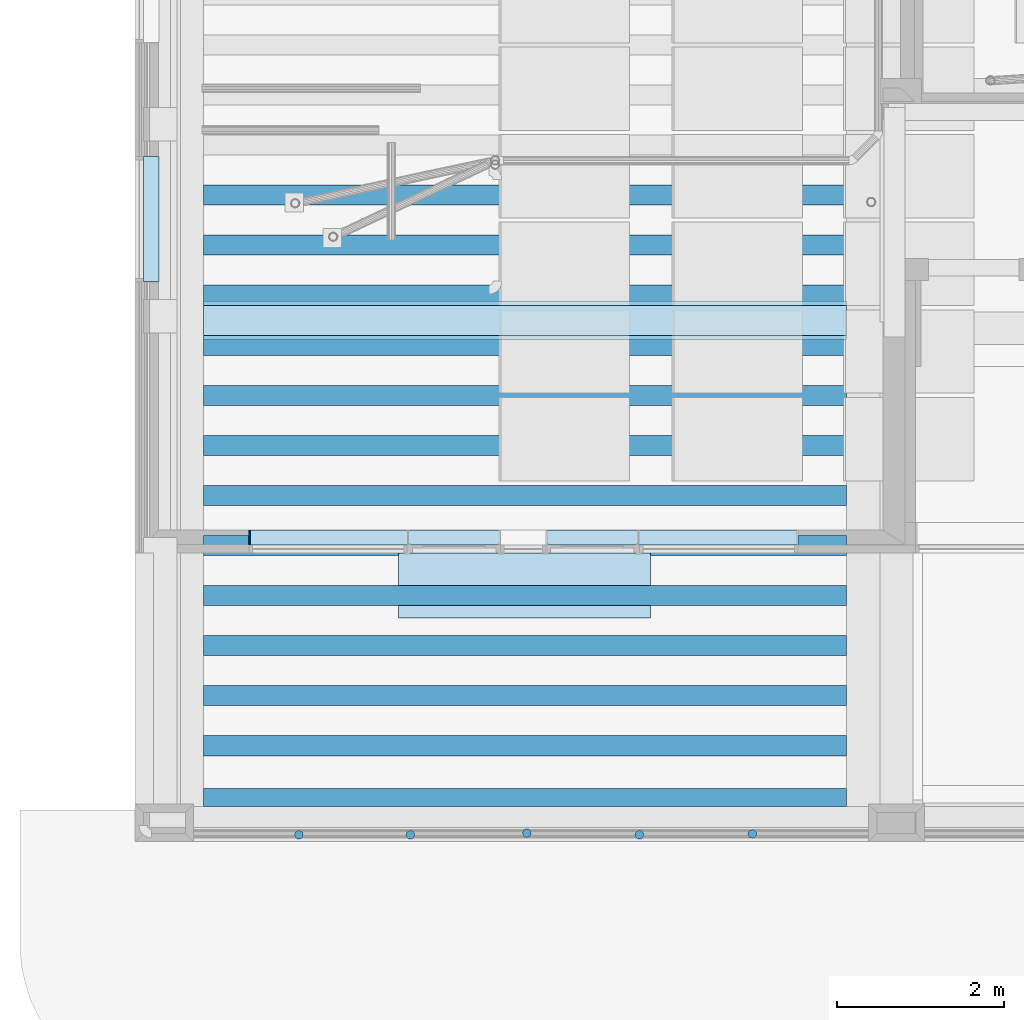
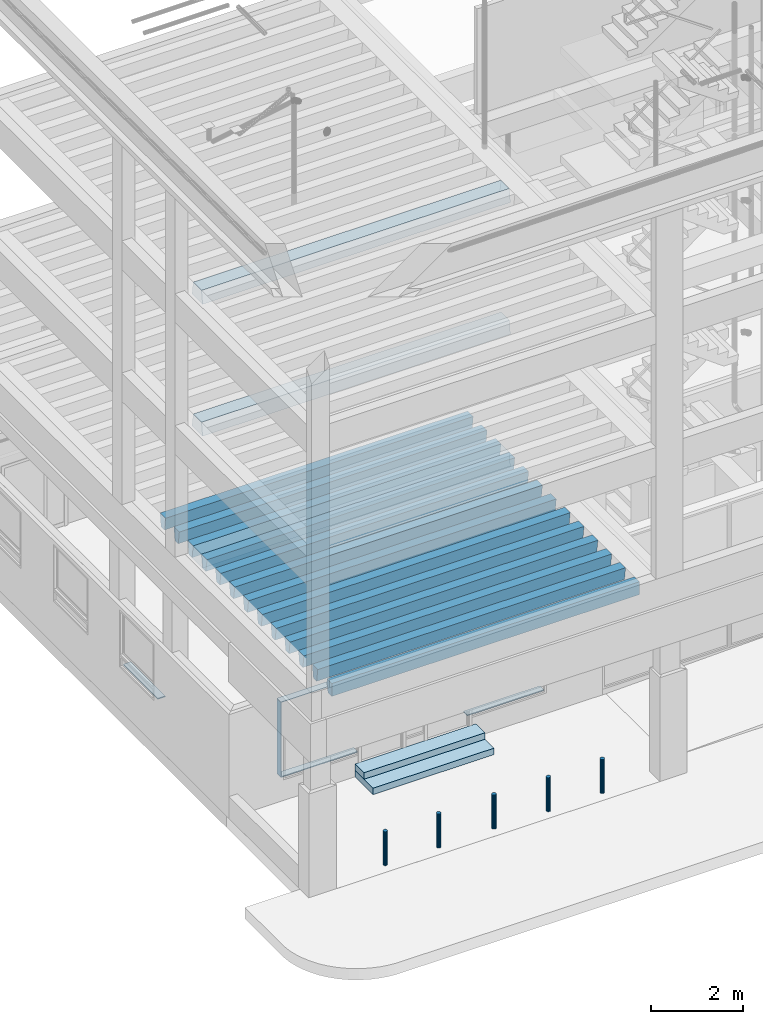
# One storey, part 14 of 106: 23 slabs, 5 members.
"""IFC2X3 building model written with IfcOpenShell, lengths in metres."""

from ifc_helpers import new_model, entity, si_unit, converted_unit, derived_unit, money_unit, direction, frame, origin_with_axes, place, context, subcontext, project, spatial, faceted_brep, material, type_object, element, save


model = new_model("IFC2X3")

# Units and contexts
model_context = context("Model", 3, precision=1e-05, world=origin_with_axes(), true_north=direction((0.0, 1.0)))
body_context = subcontext(model_context, "Body", "Model", "MODEL_VIEW", scale=1.0)
ifc_project = project(units=[si_unit("LENGTHUNIT", "METRE"), si_unit("AREAUNIT", "SQUARE_METRE"), si_unit("VOLUMEUNIT", "CUBIC_METRE"), si_unit("ABSORBEDDOSEUNIT", "GRAY"), si_unit("AMOUNTOFSUBSTANCEUNIT", "MOLE"), si_unit("DOSEEQUIVALENTUNIT", "SIEVERT"), si_unit("ELECTRICCAPACITANCEUNIT", "FARAD"), si_unit("ELECTRICCHARGEUNIT", "COULOMB"), si_unit("ELECTRICCONDUCTANCEUNIT", "SIEMENS"), si_unit("ELECTRICCURRENTUNIT", "AMPERE"), si_unit("ELECTRICRESISTANCEUNIT", "OHM"), si_unit("ELECTRICVOLTAGEUNIT", "VOLT"), si_unit("ENERGYUNIT", "JOULE"), si_unit("FORCEUNIT", "NEWTON"), si_unit("FREQUENCYUNIT", "HERTZ"), si_unit("ILLUMINANCEUNIT", "LUX"), si_unit("INDUCTANCEUNIT", "HENRY"), si_unit("LUMINOUSFLUXUNIT", "LUMEN"), si_unit("LUMINOUSINTENSITYUNIT", "CANDELA"), si_unit("MAGNETICFLUXDENSITYUNIT", "TESLA"), si_unit("MAGNETICFLUXUNIT", "WEBER"), si_unit("MASSUNIT", "GRAM"), converted_unit("PLANEANGLEUNIT", "degree", entity("IfcReal", 0.0174532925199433), si_unit("PLANEANGLEUNIT", "RADIAN"), dimensions=[0, 0, 0, 0, 0, 0, 0]), si_unit("POWERUNIT", "WATT"), si_unit("PRESSUREUNIT", "PASCAL"), si_unit("RADIOACTIVITYUNIT", "BECQUEREL"), si_unit("SOLIDANGLEUNIT", "STERADIAN"), si_unit("THERMODYNAMICTEMPERATUREUNIT", "KELVIN"), si_unit("TIMEUNIT", "SECOND"), derived_unit("ACCELERATIONUNIT", [(si_unit("LENGTHUNIT", "METRE"), 1), (si_unit("TIMEUNIT", "SECOND"), -2)]), derived_unit("ANGULARVELOCITYUNIT", [(converted_unit("PLANEANGLEUNIT", "degree", entity("IfcReal", 0.0174532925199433), si_unit("PLANEANGLEUNIT", "RADIAN"), dimensions=[0, 0, 0, 0, 0, 0, 0]), 1), (si_unit("TIMEUNIT", "SECOND"), -1)]), derived_unit("CURVATUREUNIT", [(converted_unit("PLANEANGLEUNIT", "degree", entity("IfcReal", 0.0174532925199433), si_unit("PLANEANGLEUNIT", "RADIAN"), dimensions=[0, 0, 0, 0, 0, 0, 0]), 1), (si_unit("LENGTHUNIT", "METRE"), -1)]), derived_unit("DYNAMICVISCOSITYUNIT", [(si_unit("PRESSUREUNIT", "PASCAL"), 1), (si_unit("TIMEUNIT", "SECOND"), 1)]), derived_unit("HEATFLUXDENSITYUNIT", [(si_unit("POWERUNIT", "WATT"), 1), (si_unit("LENGTHUNIT", "METRE"), -2)]), derived_unit("HEATINGVALUEUNIT", [(si_unit("ENERGYUNIT", "JOULE"), 1), (si_unit("MASSUNIT", "GRAM"), -1)]), derived_unit("INTEGERCOUNTRATEUNIT", [(si_unit("TIMEUNIT", "SECOND"), -1)]), derived_unit("IONCONCENTRATIONUNIT", [(si_unit("MASSUNIT", "GRAM"), 1), (si_unit("VOLUMEUNIT", "CUBIC_METRE"), -1)]), derived_unit("ISOTHERMALMOISTURECAPACITYUNIT", [(si_unit("VOLUMEUNIT", "CUBIC_METRE"), 1), (si_unit("MASSUNIT", "GRAM"), -1)]), derived_unit("KINEMATICVISCOSITYUNIT", [(si_unit("AREAUNIT", "SQUARE_METRE"), 1), (si_unit("TIMEUNIT", "SECOND"), -1)]), derived_unit("LINEARFORCEUNIT", [(si_unit("FORCEUNIT", "NEWTON"), 1), (si_unit("LENGTHUNIT", "METRE"), -1)]), derived_unit("LINEARMOMENTUNIT", [(si_unit("FORCEUNIT", "NEWTON"), 1), (si_unit("LENGTHUNIT", "METRE"), -1)]), derived_unit("LINEARSTIFFNESSUNIT", [(si_unit("FORCEUNIT", "NEWTON"), 1), (si_unit("LENGTHUNIT", "METRE"), -1)]), derived_unit("LINEARVELOCITYUNIT", [(si_unit("LENGTHUNIT", "METRE"), 1), (si_unit("TIMEUNIT", "SECOND"), -1)]), derived_unit("LUMINOUSINTENSITYDISTRIBUTIONUNIT", [(si_unit("LUMINOUSINTENSITYUNIT", "CANDELA"), 1), (si_unit("LUMINOUSFLUXUNIT", "LUMEN"), -1)]), derived_unit("MASSDENSITYUNIT", [(si_unit("MASSUNIT", "GRAM"), 1), (si_unit("VOLUMEUNIT", "CUBIC_METRE"), -1)]), derived_unit("MASSFLOWRATEUNIT", [(si_unit("MASSUNIT", "GRAM"), 1), (si_unit("TIMEUNIT", "SECOND"), -1)]), derived_unit("MASSPERLENGTHUNIT", [(si_unit("MASSUNIT", "GRAM"), 1), (si_unit("LENGTHUNIT", "METRE"), -1)]), derived_unit("MODULUSOFELASTICITYUNIT", [(si_unit("FORCEUNIT", "NEWTON"), 1), (si_unit("AREAUNIT", "SQUARE_METRE"), -1)]), derived_unit("MODULUSOFLINEARSUBGRADEREACTIONUNIT", [(si_unit("FORCEUNIT", "NEWTON"), 1), (si_unit("LENGTHUNIT", "METRE"), -2)]), derived_unit("MODULUSOFROTATIONALSUBGRADEREACTIONUNIT", [(si_unit("FORCEUNIT", "NEWTON"), 1), (si_unit("LENGTHUNIT", "METRE"), 1)]), derived_unit("MODULUSOFSUBGRADEREACTIONUNIT", [(si_unit("FORCEUNIT", "NEWTON"), 1), (si_unit("VOLUMEUNIT", "CUBIC_METRE"), -1)]), derived_unit("MOISTUREDIFFUSIVITYUNIT", [(si_unit("VOLUMEUNIT", "CUBIC_METRE"), 1), (si_unit("TIMEUNIT", "SECOND"), -1)]), derived_unit("MOLECULARWEIGHTUNIT", [(si_unit("MASSUNIT", "GRAM"), 1), (si_unit("AMOUNTOFSUBSTANCEUNIT", "MOLE"), -1)]), derived_unit("PLANARFORCEUNIT", [(si_unit("FORCEUNIT", "NEWTON"), 1), (si_unit("LENGTHUNIT", "METRE"), -2)]), derived_unit("ROTATIONALFREQUENCYUNIT", [(si_unit("TIMEUNIT", "SECOND"), -1)]), derived_unit("ROTATIONALMASSUNIT", [(si_unit("MASSUNIT", "GRAM"), 1), (si_unit("LENGTHUNIT", "METRE"), 2)]), derived_unit("ROTATIONALSTIFFNESSUNIT", [(si_unit("FORCEUNIT", "NEWTON"), 1), (si_unit("LENGTHUNIT", "METRE"), 1), (converted_unit("PLANEANGLEUNIT", "degree", entity("IfcReal", 0.0174532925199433), si_unit("PLANEANGLEUNIT", "RADIAN"), dimensions=[0, 0, 0, 0, 0, 0, 0]), -1)]), derived_unit("SECTIONAREAINTEGRALUNIT", [(si_unit("LENGTHUNIT", "METRE"), 5)]), derived_unit("SECTIONMODULUSUNIT", [(si_unit("LENGTHUNIT", "METRE"), 3)]), derived_unit("SHEARMODULUSUNIT", [(si_unit("FORCEUNIT", "NEWTON"), 1), (si_unit("AREAUNIT", "SQUARE_METRE"), -1)]), derived_unit("SOUNDPOWERUNIT", [(si_unit("ENERGYUNIT", "JOULE"), 1), (si_unit("TIMEUNIT", "SECOND"), -1)]), derived_unit("SPECIFICHEATCAPACITYUNIT", [(si_unit("FORCEUNIT", "NEWTON"), 1), (si_unit("MASSUNIT", "GRAM"), -1), (si_unit("THERMODYNAMICTEMPERATUREUNIT", "KELVIN"), -1)]), derived_unit("TEMPERATUREGRADIENTUNIT", [(si_unit("THERMODYNAMICTEMPERATUREUNIT", "KELVIN"), 1), (si_unit("LENGTHUNIT", "METRE"), -1)]), derived_unit("THERMALADMITTANCEUNIT", [(si_unit("POWERUNIT", "WATT"), 1), (si_unit("AREAUNIT", "SQUARE_METRE"), -1), (si_unit("THERMODYNAMICTEMPERATUREUNIT", "KELVIN"), -1)]), derived_unit("THERMALCONDUCTANCEUNIT", [(si_unit("POWERUNIT", "WATT"), 1), (si_unit("LENGTHUNIT", "METRE"), -1), (si_unit("THERMODYNAMICTEMPERATUREUNIT", "KELVIN"), -1)]), derived_unit("THERMALEXPANSIONCOEFFICIENTUNIT", [(si_unit("THERMODYNAMICTEMPERATUREUNIT", "KELVIN"), -1)]), derived_unit("THERMALRESISTANCEUNIT", [(si_unit("AREAUNIT", "SQUARE_METRE"), 1), (si_unit("POWERUNIT", "WATT"), -1)]), derived_unit("THERMALTRANSMITTANCEUNIT", [(si_unit("POWERUNIT", "WATT"), 1), (si_unit("AREAUNIT", "SQUARE_METRE"), -1), (si_unit("THERMODYNAMICTEMPERATUREUNIT", "KELVIN"), -1)]), derived_unit("TORQUEUNIT", [(si_unit("FORCEUNIT", "NEWTON"), 1), (si_unit("LENGTHUNIT", "METRE"), 1)]), derived_unit("VAPORPERMEABILITYUNIT", [(si_unit("MASSUNIT", "GRAM"), 1), (si_unit("TIMEUNIT", "SECOND"), -1)]), derived_unit("VOLUMETRICFLOWRATEUNIT", [(si_unit("VOLUMEUNIT", "CUBIC_METRE"), 1), (si_unit("TIMEUNIT", "SECOND"), -1)]), derived_unit("WARPINGCONSTANTUNIT", [(si_unit("LENGTHUNIT", "METRE"), 6)]), derived_unit("WARPINGMOMENTUNIT", [(si_unit("FORCEUNIT", "NEWTON"), 1), (si_unit("LENGTHUNIT", "METRE"), 2)]), money_unit("GBP")], contexts=[model_context])

# Site, building, storey
site_placement = place(None, origin_with_axes())
site = spatial("IfcSite", under=ifc_project, at=site_placement, Name="Site", CompositionType="ELEMENT")
building_placement = place(site_placement, origin_with_axes())
building = spatial("IfcBuilding", under=site, at=building_placement, Name="Building01", CompositionType="ELEMENT")
storey_placement = place(building_placement, origin_with_axes())
storey = spatial("IfcBuildingStorey", under=building, at=storey_placement, Name="GF", CompositionType="ELEMENT", Elevation=0.0)

# Members
ifc_material_1 = material(Name="A_BSUK_Steel_Miscellaneous")
member_type = type_object("IfcMemberType", Name="A-FrameElements:A_BSUK_Steel_Miscellaneous", PredefinedType="NOTDEFINED")
placement = place(storey_placement, origin_with_axes())
element("IfcMember", 1, at=placement, inside=storey, type_object=member_type, material=ifc_material_1, Name="A-FrameElements--A_BSUK_Steel_Miscellaneous", ObjectType="A-FrameElements:A_BSUK_Steel_Miscellaneous", context=body_context, shape_type="Brep", body=[
    faceted_brep([(2.009894, 0.062308, 0.0), (1.998692, 0.045543, 0.0), (1.981927, 0.03434, 0.0), (1.962151, 0.030407, 0.0), (1.942374, 0.03434, 0.0), (1.925609, 0.045543, 0.0), (1.914407, 0.062308, 0.0), (1.910473, 0.082084, 0.0), (1.914407, 0.10186, 0.0), (1.925609, 0.118626, 0.0), (1.942374, 0.129828, 0.0), (1.962151, 0.133762, 0.0), (1.981927, 0.129828, 0.0), (1.998692, 0.118626, 0.0), (2.009894, 0.10186, 0.0), (2.013828, 0.082084, 0.0), (2.013773, 0.079695, 0.0), (1.910473, 0.082084, 0.9), (1.914407, 0.10186, 0.9), (1.925609, 0.118626, 0.9), (1.942374, 0.129828, 0.9), (1.962151, 0.133762, 0.9), (1.981927, 0.129828, 0.9), (1.998692, 0.118626, 0.9), (2.009894, 0.10186, 0.9), (2.013828, 0.082084, 0.9), (2.013773, 0.079695, 0.9), (2.009894, 0.062308, 0.9), (1.998692, 0.045543, 0.9), (1.981927, 0.03434, 0.9), (1.962151, 0.030407, 0.9), (1.942374, 0.03434, 0.9), (1.925609, 0.045543, 0.9), (1.914407, 0.062308, 0.9)], [[[0, 1, 2, 3, 4, 5, 6, 7, 8, 9, 10, 11, 12, 13, 14, 15, 16]], [[7, 17, 18, 8]], [[8, 18, 19, 9]], [[9, 19, 20, 10]], [[10, 20, 21, 11]], [[11, 21, 22, 12]], [[12, 22, 23, 13]], [[13, 23, 24, 14]], [[14, 24, 25, 15]], [[26, 27, 0, 16]], [[0, 27, 28, 1]], [[1, 28, 29, 2]], [[2, 29, 30, 3]], [[3, 30, 31, 4]], [[4, 31, 32, 5]], [[5, 32, 33, 6]], [[6, 33, 17, 7]], [[16, 15, 25, 26]], [[25, 24, 23, 22, 21, 20, 19, 18, 17, 33, 32, 31, 30, 29, 28, 27, 26]]]),
])
element("IfcMember", 2, at=placement, inside=storey, type_object=member_type, material=ifc_material_1, Name="A-FrameElements--A_BSUK_Steel_Miscellaneous", ObjectType="A-FrameElements:A_BSUK_Steel_Miscellaneous", context=body_context, shape_type="Brep", body=[
    faceted_brep([(3.346752, 0.062308, 0.0), (3.33555, 0.045543, 0.0), (3.318784, 0.03434, 0.0), (3.299008, 0.030407, 0.0), (3.279232, 0.03434, 0.0), (3.262466, 0.045543, 0.0), (3.251264, 0.062308, 0.0), (3.24733, 0.082084, 0.0), (3.251264, 0.10186, 0.0), (3.262466, 0.118626, 0.0), (3.279232, 0.129828, 0.0), (3.299008, 0.133762, 0.0), (3.318784, 0.129828, 0.0), (3.33555, 0.118626, 0.0), (3.346752, 0.10186, 0.0), (3.350686, 0.082084, 0.0), (3.35063, 0.079695, 0.0), (3.24733, 0.082084, 0.9), (3.251264, 0.10186, 0.9), (3.262466, 0.118626, 0.9), (3.279232, 0.129828, 0.9), (3.299008, 0.133762, 0.9), (3.318784, 0.129828, 0.9), (3.33555, 0.118626, 0.9), (3.346752, 0.10186, 0.9), (3.350686, 0.082084, 0.9), (3.35063, 0.079695, 0.9), (3.346752, 0.062308, 0.9), (3.33555, 0.045543, 0.9), (3.318784, 0.03434, 0.9), (3.299008, 0.030407, 0.9), (3.279232, 0.03434, 0.9), (3.262466, 0.045543, 0.9), (3.251264, 0.062308, 0.9)], [[[0, 1, 2, 3, 4, 5, 6, 7, 8, 9, 10, 11, 12, 13, 14, 15, 16]], [[7, 17, 18, 8]], [[8, 18, 19, 9]], [[9, 19, 20, 10]], [[10, 20, 21, 11]], [[11, 21, 22, 12]], [[12, 22, 23, 13]], [[13, 23, 24, 14]], [[14, 24, 25, 15]], [[26, 27, 0, 16]], [[0, 27, 28, 1]], [[1, 28, 29, 2]], [[2, 29, 30, 3]], [[3, 30, 31, 4]], [[4, 31, 32, 5]], [[5, 32, 33, 6]], [[6, 33, 17, 7]], [[16, 15, 25, 26]], [[25, 24, 23, 22, 21, 20, 19, 18, 17, 33, 32, 31, 30, 29, 28, 27, 26]]]),
])
element("IfcMember", 3, at=placement, inside=storey, type_object=member_type, material=ifc_material_1, Name="A-FrameElements--A_BSUK_Steel_Miscellaneous", ObjectType="A-FrameElements:A_BSUK_Steel_Miscellaneous", context=body_context, shape_type="Brep", body=[
    faceted_brep([(4.742823, 0.08334, 0.0), (4.731621, 0.066575, 0.0), (4.714856, 0.055373, 0.0), (4.695079, 0.051439, 0.0), (4.675303, 0.055373, 0.0), (4.658538, 0.066575, 0.0), (4.647335, 0.08334, 0.0), (4.643402, 0.103117, 0.0), (4.647335, 0.122893, 0.0), (4.658538, 0.139658, 0.0), (4.675303, 0.15086, 0.0), (4.695079, 0.154794, 0.0), (4.714856, 0.15086, 0.0), (4.731621, 0.139658, 0.0), (4.742823, 0.122893, 0.0), (4.746757, 0.103117, 0.0), (4.746702, 0.100727, 0.0), (4.643402, 0.103117, 0.9), (4.647335, 0.122893, 0.9), (4.658538, 0.139658, 0.9), (4.675303, 0.15086, 0.9), (4.695079, 0.154794, 0.9), (4.714856, 0.15086, 0.9), (4.731621, 0.139658, 0.9), (4.742823, 0.122893, 0.9), (4.746757, 0.103117, 0.9), (4.746702, 0.100727, 0.9), (4.742823, 0.08334, 0.9), (4.731621, 0.066575, 0.9), (4.714856, 0.055373, 0.9), (4.695079, 0.051439, 0.9), (4.675303, 0.055373, 0.9), (4.658538, 0.066575, 0.9), (4.647335, 0.08334, 0.9)], [[[0, 1, 2, 3, 4, 5, 6, 7, 8, 9, 10, 11, 12, 13, 14, 15, 16]], [[7, 17, 18, 8]], [[8, 18, 19, 9]], [[9, 19, 20, 10]], [[10, 20, 21, 11]], [[11, 21, 22, 12]], [[12, 22, 23, 13]], [[13, 23, 24, 14]], [[14, 24, 25, 15]], [[26, 27, 0, 16]], [[0, 27, 28, 1]], [[1, 28, 29, 2]], [[2, 29, 30, 3]], [[3, 30, 31, 4]], [[4, 31, 32, 5]], [[5, 32, 33, 6]], [[6, 33, 17, 7]], [[16, 15, 25, 26]], [[25, 24, 23, 22, 21, 20, 19, 18, 17, 33, 32, 31, 30, 29, 28, 27, 26]]]),
])
element("IfcMember", 4, at=placement, inside=storey, type_object=member_type, material=ifc_material_1, Name="A-FrameElements--A_BSUK_Steel_Miscellaneous", ObjectType="A-FrameElements:A_BSUK_Steel_Miscellaneous", context=body_context, shape_type="Brep", body=[
    faceted_brep([(6.091739, 0.062814, 0.0), (6.080537, 0.046049, 0.0), (6.063771, 0.034847, 0.0), (6.043995, 0.030913, 0.0), (6.024219, 0.034847, 0.0), (6.007453, 0.046049, 0.0), (5.996251, 0.062814, 0.0), (5.992317, 0.082591, 0.0), (5.996251, 0.102367, 0.0), (6.007453, 0.119132, 0.0), (6.024219, 0.130334, 0.0), (6.043995, 0.134268, 0.0), (6.063771, 0.130334, 0.0), (6.080537, 0.119132, 0.0), (6.091739, 0.102367, 0.0), (6.095673, 0.082591, 0.0), (6.095617, 0.080201, 0.0), (5.992317, 0.082591, 0.9), (5.996251, 0.102367, 0.9), (6.007453, 0.119132, 0.9), (6.024219, 0.130334, 0.9), (6.043995, 0.134268, 0.9), (6.063771, 0.130334, 0.9), (6.080537, 0.119132, 0.9), (6.091739, 0.102367, 0.9), (6.095673, 0.082591, 0.9), (6.095617, 0.080201, 0.9), (6.091739, 0.062814, 0.9), (6.080537, 0.046049, 0.9), (6.063771, 0.034847, 0.9), (6.043995, 0.030913, 0.9), (6.024219, 0.034847, 0.9), (6.007453, 0.046049, 0.9), (5.996251, 0.062814, 0.9)], [[[0, 1, 2, 3, 4, 5, 6, 7, 8, 9, 10, 11, 12, 13, 14, 15, 16]], [[7, 17, 18, 8]], [[8, 18, 19, 9]], [[9, 19, 20, 10]], [[10, 20, 21, 11]], [[11, 21, 22, 12]], [[12, 22, 23, 13]], [[13, 23, 24, 14]], [[14, 24, 25, 15]], [[26, 27, 0, 16]], [[0, 27, 28, 1]], [[1, 28, 29, 2]], [[2, 29, 30, 3]], [[3, 30, 31, 4]], [[4, 31, 32, 5]], [[5, 32, 33, 6]], [[6, 33, 17, 7]], [[16, 15, 25, 26]], [[25, 24, 23, 22, 21, 20, 19, 18, 17, 33, 32, 31, 30, 29, 28, 27, 26]]]),
])
element("IfcMember", 5, at=placement, inside=storey, type_object=member_type, material=ifc_material_1, Name="A-FrameElements--A_BSUK_Steel_Miscellaneous", ObjectType="A-FrameElements:A_BSUK_Steel_Miscellaneous", context=body_context, shape_type="Brep", body=[
    faceted_brep([(7.444789, 0.072802, 0.0), (7.433586, 0.056036, 0.0), (7.416821, 0.044834, 0.0), (7.397045, 0.0409, 0.0), (7.377269, 0.044834, 0.0), (7.360503, 0.056036, 0.0), (7.349301, 0.072802, 0.0), (7.345367, 0.092578, 0.0), (7.349301, 0.112354, 0.0), (7.360503, 0.129119, 0.0), (7.377269, 0.140322, 0.0), (7.397045, 0.144256, 0.0), (7.416821, 0.140322, 0.0), (7.433586, 0.129119, 0.0), (7.444789, 0.112354, 0.0), (7.448723, 0.092578, 0.0), (7.448667, 0.090189, 0.0), (7.345367, 0.092578, 0.9), (7.349301, 0.112354, 0.9), (7.360503, 0.129119, 0.9), (7.377269, 0.140322, 0.9), (7.397045, 0.144256, 0.9), (7.416821, 0.140322, 0.9), (7.433586, 0.129119, 0.9), (7.444789, 0.112354, 0.9), (7.448723, 0.092578, 0.9), (7.448667, 0.090189, 0.9), (7.444789, 0.072802, 0.9), (7.433586, 0.056036, 0.9), (7.416821, 0.044834, 0.9), (7.397045, 0.0409, 0.9), (7.377269, 0.044834, 0.9), (7.360503, 0.056036, 0.9), (7.349301, 0.072802, 0.9)], [[[0, 1, 2, 3, 4, 5, 6, 7, 8, 9, 10, 11, 12, 13, 14, 15, 16]], [[7, 17, 18, 8]], [[8, 18, 19, 9]], [[9, 19, 20, 10]], [[10, 20, 21, 11]], [[11, 21, 22, 12]], [[12, 22, 23, 13]], [[13, 23, 24, 14]], [[14, 24, 25, 15]], [[26, 27, 0, 16]], [[0, 27, 28, 1]], [[1, 28, 29, 2]], [[2, 29, 30, 3]], [[3, 30, 31, 4]], [[4, 31, 32, 5]], [[5, 32, 33, 6]], [[6, 33, 17, 7]], [[16, 15, 25, 26]], [[25, 24, 23, 22, 21, 20, 19, 18, 17, 33, 32, 31, 30, 29, 28, 27, 26]]]),
])

# Slabs
ifc_material_2 = material(Name="A_BSUK_Slabs")
slab_type = type_object("IfcSlabType", Name="A-FloorsSlabs A_BSUK_Slabs", PredefinedType="FLOOR")
element("IfcSlab", 6, at=placement, inside=storey, type_object=slab_type, material=ifc_material_2, Name="A-FloorsSlabs A_BSUK_Slabs", ObjectType="CompoundSlabLeaf", context=body_context, shape_type="Brep", body=[
    faceted_brep([(3.157929, 2.679398, -0.145), (3.157929, 2.679398, 0.025), (3.157929, 3.459398, 0.025), (3.157929, 3.459398, -0.145), (6.178553, 2.679398, -0.145), (6.178553, 2.679398, 0.025), (6.178553, 3.459284, -0.145), (6.178553, 3.459284, 0.025)], [[[0, 1, 2, 3]], [[4, 5, 1, 0]], [[6, 7, 5, 4]], [[3, 2, 7, 6]], [[1, 5, 7, 2]], [[3, 6, 4, 0]]]),
])
element("IfcSlab", 7, at=placement, inside=storey, type_object=slab_type, material=ifc_material_2, Name="A-FloorsSlabs A_BSUK_Slabs", ObjectType="CompoundSlabLeaf", context=body_context, shape_type="Brep", body=[
    faceted_brep([(3.157929, 3.069398, 0.025), (3.157929, 3.069398, 0.198), (3.157929, 3.459398, 0.198), (3.157929, 3.459398, 0.025), (6.178553, 3.069398, 0.025), (6.178553, 3.069398, 0.198), (6.178553, 3.459284, 0.025), (6.178553, 3.459284, 0.198)], [[[0, 1, 2, 3]], [[4, 5, 1, 0]], [[6, 7, 5, 4]], [[3, 2, 7, 6]], [[1, 5, 7, 2]], [[3, 6, 4, 0]]]),
])
element("IfcSlab", 8, at=placement, inside=storey, type_object=slab_type, material=ifc_material_2, Name="A-FloorsSlabs A_BSUK_Slabs", ObjectType="CompoundSlabLeaf", context=body_context, shape_type="Brep", body=[
    faceted_brep([(1.361681, 3.559009, 0.398), (1.361681, 3.559009, 0.423), (1.361681, 3.733332, 0.423), (1.361681, 3.733332, 0.398), (3.276681, 3.559009, 0.398), (3.276681, 3.559009, 0.423), (3.276681, 3.733298, 0.398), (3.276681, 3.733298, 0.423)], [[[0, 1, 2, 3]], [[4, 5, 1, 0]], [[6, 7, 5, 4]], [[3, 2, 7, 6]], [[1, 5, 7, 2]], [[3, 6, 4, 0]]]),
])
element("IfcSlab", 9, at=placement, inside=storey, type_object=slab_type, material=ifc_material_2, Name="A-FloorsSlabs A_BSUK_Slabs", ObjectType="CompoundSlabLeaf", context=body_context, shape_type="Brep", body=[
    faceted_brep([(6.026681, 3.559009, 0.398), (6.026681, 3.559009, 0.423), (6.026681, 3.733332, 0.423), (6.026681, 3.733332, 0.398), (7.941681, 3.559009, 0.398), (7.941681, 3.559009, 0.423), (7.941681, 3.733298, 0.398), (7.941681, 3.733298, 0.423)], [[[0, 1, 2, 3]], [[4, 5, 1, 0]], [[6, 7, 5, 4]], [[3, 2, 7, 6]], [[1, 5, 7, 2]], [[3, 6, 4, 0]]]),
])
element("IfcSlab", 10, at=placement, inside=storey, type_object=slab_type, material=ifc_material_2, Name="A-FloorsSlabs A_BSUK_Slabs", ObjectType="CompoundSlabLeaf", context=body_context, shape_type="Brep", body=[
    faceted_brep([(1.361681, 3.559009, 2.383), (1.361681, 3.559009, 2.398), (1.361681, 3.733332, 2.398), (1.361681, 3.733332, 2.383), (7.941681, 3.559009, 2.383), (7.941681, 3.559009, 2.398), (7.941681, 3.733298, 2.383), (7.941681, 3.733298, 2.398)], [[[0, 1, 2, 3]], [[4, 5, 1, 0]], [[6, 7, 5, 4]], [[3, 2, 7, 6]], [[1, 5, 7, 2]], [[3, 6, 4, 0]]]),
])
element("IfcSlab", 11, at=placement, inside=storey, type_object=slab_type, material=ifc_material_2, Name="A-FloorsSlabs A_BSUK_Slabs", ObjectType="CompoundSlabLeaf", context=body_context, shape_type="Brep", body=[
    faceted_brep([(1.376681, 3.559009, 0.413), (1.361681, 3.559009, 0.413), (1.361681, 3.733332, 0.413), (1.376681, 3.733332, 0.413), (1.376681, 3.55892, 2.383), (1.361681, 3.55892, 2.383), (1.376681, 3.733208, 2.383), (1.361681, 3.733208, 2.383)], [[[0, 1, 2, 3]], [[4, 5, 1, 0]], [[6, 7, 5, 4]], [[3, 2, 7, 6]], [[1, 5, 7, 2]], [[3, 6, 4, 0]]]),
])
ifc_material_3 = material(Name="A_BSUK_Timber_Miscellaneous")
element("IfcSlab", 12, at=placement, inside=storey, type_object=slab_type, material=ifc_material_3, Name="A-FloorsSlabs A_BSUK_Slabs", ObjectType="CompoundSlabLeaf", context=body_context, shape_type="Brep", body=[
    faceted_brep([(0.100088, 8.212761, 0.998), (0.100088, 8.212761, 1.023), (0.287079, 8.212761, 1.023), (0.287079, 8.212761, 0.998), (0.100088, 6.712761, 0.998), (0.100088, 6.712761, 1.023), (0.287079, 6.712761, 0.998), (0.287079, 6.712761, 1.023)], [[[0, 1, 2, 3]], [[4, 5, 1, 0]], [[6, 7, 5, 4]], [[3, 2, 7, 6]], [[1, 5, 7, 2]], [[3, 6, 4, 0]]]),
])
for number, where, z_axis, x_axis, name in (
    (13, (0.846941, 6.261429, 4.64), (0.0, 0.0, -1.0), (1.0, 0.0, 0.0), "A-FloorsSlabs A_BSUK_Slabs"),
    (14, (0.846941, 6.261429, 8.13), (0.0, 0.0, -1.0), (1.0, 0.0, 0.0), "A-FloorsSlabs A_BSUK_Slabs"),
    (15, (0.846941, 6.261429, 11.62), (0.0, 0.0, -1.0), (1.0, 0.0, 0.0), "A-FloorsSlabs A_BSUK_Slabs"),
):
    element("IfcSlab", number, at=place(storey_placement, frame(where, z_axis=z_axis, x_axis=x_axis)), inside=storey, type_object=slab_type, material=ifc_material_2, Name=name, ObjectType="A-FloorsSlabs A_BSUK_Slabs", context=body_context, shape_type="Brep", body=[
        faceted_brep([(-0.026941, -0.168571, -0.34), (7.678059, -0.168571, -0.34), (7.678059, -0.217143, 0.0), (-0.026941, -0.217143, 0.0), (-0.026941, 0.191429, -0.34), (7.678059, 0.191429, -0.34), (-0.026941, 0.24, 0.0), (7.678059, 0.24, 0.0)], [[[0, 1, 2, 3]], [[4, 5, 1, 0]], [[6, 7, 5, 4]], [[3, 2, 7, 6]], [[1, 5, 7, 2]], [[3, 6, 4, 0]]]),
    ])
slab_8_placement = place(storey_placement, frame((0.846941, 0.42, 4.98), z_axis=(0.0, 0.0, 1.0), x_axis=(1.0, 0.0, 0.0)))
element("IfcSlab", 16, at=slab_8_placement, inside=storey, type_object=slab_type, material=ifc_material_2, Name="A-FloorsSlabs A_BSUK_Slabs", ObjectType="A-FloorsSlabs A_BSUK_Slabs", context=body_context, shape_type="Brep", body=[
    faceted_brep([(-0.026941, 0.0, -0.34), (7.678059, 0.0, -0.34), (7.678059, 0.0, 0.0), (-0.026941, 0.0, 0.0), (-0.026941, 0.171429, -0.34), (7.678059, 0.171429, -0.34), (-0.026941, 0.22, 0.0), (7.678059, 0.22, 0.0)], [[[0, 1, 2, 3]], [[4, 5, 1, 0]], [[6, 7, 5, 4]], [[3, 2, 7, 6]], [[1, 5, 7, 2]], [[3, 6, 4, 0]]]),
])
for number, where, z_axis, x_axis, name in (
    (17, (0.846941, 7.03, 4.98), (0.0, 0.0, 1.0), (1.0, 0.0, 0.0), "A-FloorsSlabs A_BSUK_Slabs"),
    (18, (0.846941, 6.43, 4.98), (0.0, 0.0, 1.0), (1.0, 0.0, 0.0), "A-FloorsSlabs A_BSUK_Slabs"),
    (19, (0.846941, 7.63, 4.98), (0.0, 0.0, 1.0), (1.0, 0.0, 0.0), "A-FloorsSlabs A_BSUK_Slabs"),
    (20, (0.846941, 5.23, 4.98), (0.0, 0.0, 1.0), (1.0, 0.0, 0.0), "A-FloorsSlabs A_BSUK_Slabs"),
    (21, (0.846941, 4.63, 4.98), (0.0, 0.0, 1.0), (1.0, 0.0, 0.0), "A-FloorsSlabs A_BSUK_Slabs"),
    (22, (0.846941, 5.83, 4.98), (0.0, 0.0, 1.0), (1.0, 0.0, 0.0), "A-FloorsSlabs A_BSUK_Slabs"),
    (23, (0.846941, 3.43, 4.98), (0.0, 0.0, 1.0), (1.0, 0.0, 0.0), "A-FloorsSlabs A_BSUK_Slabs"),
    (24, (0.846941, 2.83, 4.98), (0.0, 0.0, 1.0), (1.0, 0.0, 0.0), "A-FloorsSlabs A_BSUK_Slabs"),
    (25, (0.846941, 4.03, 4.98), (0.0, 0.0, 1.0), (1.0, 0.0, 0.0), "A-FloorsSlabs A_BSUK_Slabs"),
    (26, (0.846941, 1.63, 4.98), (0.0, 0.0, 1.0), (1.0, 0.0, 0.0), "A-FloorsSlabs A_BSUK_Slabs"),
    (27, (0.846941, 1.03, 4.98), (0.0, 0.0, 1.0), (1.0, 0.0, 0.0), "A-FloorsSlabs A_BSUK_Slabs"),
    (28, (0.846941, 2.23, 4.98), (0.0, 0.0, 1.0), (1.0, 0.0, 0.0), "A-FloorsSlabs A_BSUK_Slabs"),
):
    element("IfcSlab", number, at=place(storey_placement, frame(where, z_axis=z_axis, x_axis=x_axis)), inside=storey, type_object=slab_type, material=ifc_material_2, Name=name, ObjectType="A-FloorsSlabs A_BSUK_Slabs", context=body_context, shape_type="Brep", body=[
        faceted_brep([(-0.026941, 0.048571, -0.34), (7.678059, 0.048571, -0.34), (7.678059, 0.0, 0.0), (-0.026941, 0.0, 0.0), (-0.026941, 0.191429, -0.34), (7.678059, 0.191429, -0.34), (-0.026941, 0.24, 0.0), (7.678059, 0.24, 0.0)], [[[0, 1, 2, 3]], [[4, 5, 1, 0]], [[6, 7, 5, 4]], [[3, 2, 7, 6]], [[1, 5, 7, 2]], [[3, 6, 4, 0]]]),
    ])

save(model, "model.ifc")
